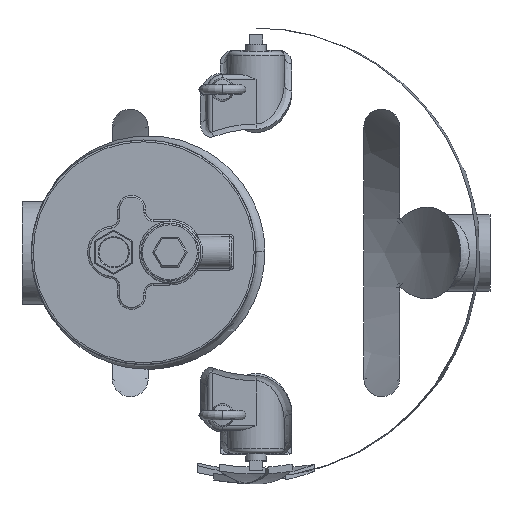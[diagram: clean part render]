
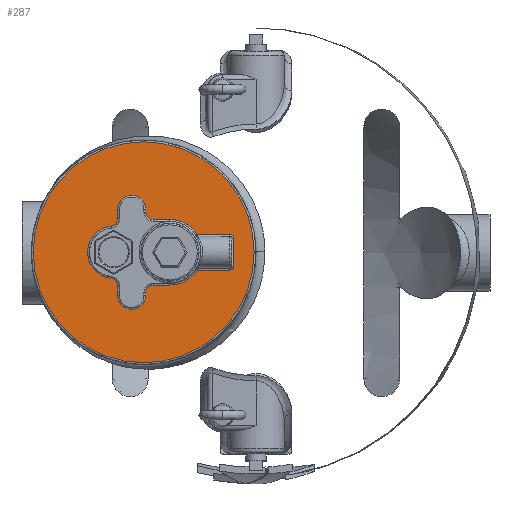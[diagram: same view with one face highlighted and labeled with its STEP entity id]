
A CAD part, top view. The second image highlights one B-rep face of the part: STEP entity #287.
In plain terms, the highlighted planar face has unit normal (0, 0, 1) as drawn and (0, 1, 0) by its records, which use the part's own axes.
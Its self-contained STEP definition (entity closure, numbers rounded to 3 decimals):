
#287=ADVANCED_FACE('',(#1531,#1532),#1530,.T.);
#1530=PLANE('',#22404);
#1531=FACE_OUTER_BOUND('',#22405,.T.);
#1532=FACE_BOUND('',#22406,.T.);
#22401=CARTESIAN_POINT('',(126.,283.5,-214.382));
#22402=DIRECTION('',(0.,1.,0.));
#22403=DIRECTION('',(-1.,0.,0.));
#22404=AXIS2_PLACEMENT_3D('',#22401,#22402,#22403);
#22405=EDGE_LOOP('',(#26276,#26277));
#22406=EDGE_LOOP('',(#26278,#26279,#26280,#26281,#26282,#26283,#26284,#26285,#26286,#26287,#26288,#26289,#26290,#26291,#26292,#26293,#26294,#26295,#26296,#26297));
#26276=ORIENTED_EDGE('',*,*,#27523,.T.);
#26277=ORIENTED_EDGE('',*,*,#27524,.T.);
#26278=ORIENTED_EDGE('',*,*,#27525,.T.);
#26279=ORIENTED_EDGE('',*,*,#27526,.T.);
#26280=ORIENTED_EDGE('',*,*,#27527,.T.);
#26281=ORIENTED_EDGE('',*,*,#27528,.T.);
#26282=ORIENTED_EDGE('',*,*,#27529,.T.);
#26283=ORIENTED_EDGE('',*,*,#27530,.T.);
#26284=ORIENTED_EDGE('',*,*,#27531,.T.);
#26285=ORIENTED_EDGE('',*,*,#27532,.T.);
#26286=ORIENTED_EDGE('',*,*,#27533,.T.);
#26287=ORIENTED_EDGE('',*,*,#27534,.T.);
#26288=ORIENTED_EDGE('',*,*,#27535,.T.);
#26289=ORIENTED_EDGE('',*,*,#27536,.T.);
#26290=ORIENTED_EDGE('',*,*,#27537,.T.);
#26291=ORIENTED_EDGE('',*,*,#27538,.T.);
#26292=ORIENTED_EDGE('',*,*,#27539,.T.);
#26293=ORIENTED_EDGE('',*,*,#27540,.T.);
#26294=ORIENTED_EDGE('',*,*,#27541,.T.);
#26295=ORIENTED_EDGE('',*,*,#27542,.T.);
#26296=ORIENTED_EDGE('',*,*,#27543,.T.);
#26297=ORIENTED_EDGE('',*,*,#27544,.T.);
#27523=EDGE_CURVE('',#29860,#29861,#29862,.T.);
#27524=EDGE_CURVE('',#29861,#29860,#29868,.T.);
#27525=EDGE_CURVE('',#29874,#29875,#29876,.T.);
#27526=EDGE_CURVE('',#29875,#29882,#29883,.T.);
#27527=EDGE_CURVE('',#29882,#29889,#29890,.T.);
#27528=EDGE_CURVE('',#29889,#29896,#29897,.T.);
#27529=EDGE_CURVE('',#29896,#29903,#29904,.T.);
#27530=EDGE_CURVE('',#29903,#29910,#29911,.T.);
#27531=EDGE_CURVE('',#29910,#29917,#29918,.T.);
#27532=EDGE_CURVE('',#29917,#29924,#29925,.T.);
#27533=EDGE_CURVE('',#29924,#29931,#29932,.T.);
#27534=EDGE_CURVE('',#29931,#29938,#29939,.T.);
#27535=EDGE_CURVE('',#29938,#29945,#29946,.T.);
#27536=EDGE_CURVE('',#29945,#29952,#29953,.T.);
#27537=EDGE_CURVE('',#29952,#29959,#29960,.T.);
#27538=EDGE_CURVE('',#29959,#29966,#29967,.T.);
#27539=EDGE_CURVE('',#29966,#29973,#29974,.T.);
#27540=EDGE_CURVE('',#29973,#29980,#29981,.T.);
#27541=EDGE_CURVE('',#29980,#29987,#29988,.T.);
#27542=EDGE_CURVE('',#29987,#29994,#29995,.T.);
#27543=EDGE_CURVE('',#29994,#30001,#30002,.T.);
#27544=EDGE_CURVE('',#30001,#29874,#30008,.T.);
#29860=VERTEX_POINT('',#35608);
#29861=VERTEX_POINT('',#35609);
#29862=CIRCLE('',#35613,118.);
#29868=CIRCLE('',#35617,118.);
#29874=VERTEX_POINT('',#35618);
#29875=VERTEX_POINT('',#35619);
#29876=LINE('',#35620,#35621);
#29882=VERTEX_POINT('',#35623);
#29883=CIRCLE('',#35627,4.);
#29889=VERTEX_POINT('',#35628);
#29890=LINE('',#35629,#35630);
#29896=VERTEX_POINT('',#35632);
#29897=CIRCLE('',#35636,35.);
#29903=VERTEX_POINT('',#35637);
#29904=LINE('',#35638,#35639);
#29910=VERTEX_POINT('',#35641);
#29911=CIRCLE('',#35645,8.);
#29917=VERTEX_POINT('',#35646);
#29918=LINE('',#35647,#35648);
#29924=VERTEX_POINT('',#35650);
#29925=CIRCLE('',#35654,15.);
#29931=VERTEX_POINT('',#35655);
#29932=LINE('',#35656,#35657);
#29938=VERTEX_POINT('',#35659);
#29939=CIRCLE('',#35663,8.);
#29945=VERTEX_POINT('',#35664);
#29946=CIRCLE('',#35668,28.);
#29952=VERTEX_POINT('',#35669);
#29953=CIRCLE('',#35673,8.);
#29959=VERTEX_POINT('',#35674);
#29960=LINE('',#35675,#35676);
#29966=VERTEX_POINT('',#35678);
#29967=CIRCLE('',#35682,15.);
#29973=VERTEX_POINT('',#35683);
#29974=LINE('',#35684,#35685);
#29980=VERTEX_POINT('',#35687);
#29981=CIRCLE('',#35691,8.);
#29987=VERTEX_POINT('',#35692);
#29988=LINE('',#35693,#35694);
#29994=VERTEX_POINT('',#35696);
#29995=CIRCLE('',#35700,35.);
#30001=VERTEX_POINT('',#35701);
#30002=LINE('',#35702,#35703);
#30008=CIRCLE('',#35708,4.);
#35608=CARTESIAN_POINT('',(-238.,283.5,0.));
#35609=CARTESIAN_POINT('',(-2.,283.5,0.));
#35610=CARTESIAN_POINT('',(-120.,283.5,0.));
#35611=DIRECTION('',(0.,1.,0.));
#35612=DIRECTION('',(-1.,0.,0.));
#35613=AXIS2_PLACEMENT_3D('',#35610,#35611,#35612);
#35614=CARTESIAN_POINT('',(-120.,283.5,0.));
#35615=DIRECTION('',(0.,1.,0.));
#35616=DIRECTION('',(-1.,0.,0.));
#35617=AXIS2_PLACEMENT_3D('',#35614,#35615,#35616);
#35618=CARTESIAN_POINT('',(-24.,283.5,-15.));
#35619=CARTESIAN_POINT('',(-24.,283.5,15.));
#35620=CARTESIAN_POINT('',(-24.,283.5,-15.));
#35621=VECTOR('',#35622,30.);
#35622=DIRECTION('',(0.,0.,1.));
#35623=CARTESIAN_POINT('',(-28.,283.5,19.));
#35624=CARTESIAN_POINT('',(-28.,283.5,15.));
#35625=DIRECTION('',(0.,-1.,0.));
#35626=DIRECTION('',(-1.,0.,0.));
#35627=AXIS2_PLACEMENT_3D('',#35624,#35625,#35626);
#35628=CARTESIAN_POINT('',(-62.606,283.5,19.));
#35629=CARTESIAN_POINT('',(-28.,283.5,19.));
#35630=VECTOR('',#35631,34.606);
#35631=DIRECTION('',(-1.,0.,0.));
#35632=CARTESIAN_POINT('',(-92.,283.5,35.));
#35633=CARTESIAN_POINT('',(-92.,283.5,0.));
#35634=DIRECTION('',(0.,-1.,0.));
#35635=DIRECTION('',(-0.84,0.,-0.543));
#35636=AXIS2_PLACEMENT_3D('',#35633,#35634,#35635);
#35637=CARTESIAN_POINT('',(-109.8,283.5,35.));
#35638=CARTESIAN_POINT('',(-92.,283.5,35.));
#35639=VECTOR('',#35640,17.8);
#35640=DIRECTION('',(-1.,0.,0.));
#35641=CARTESIAN_POINT('',(-117.8,283.5,43.));
#35642=CARTESIAN_POINT('',(-109.8,283.5,43.));
#35643=DIRECTION('',(0.,1.,0.));
#35644=DIRECTION('',(0.,0.,1.));
#35645=AXIS2_PLACEMENT_3D('',#35642,#35643,#35644);
#35646=CARTESIAN_POINT('',(-117.8,283.5,46.));
#35647=CARTESIAN_POINT('',(-117.8,283.5,43.));
#35648=VECTOR('',#35649,3.);
#35649=DIRECTION('',(0.,0.,1.));
#35650=CARTESIAN_POINT('',(-147.8,283.5,46.));
#35651=CARTESIAN_POINT('',(-132.8,283.5,46.));
#35652=DIRECTION('',(0.,-1.,0.));
#35653=DIRECTION('',(-1.,0.,0.));
#35654=AXIS2_PLACEMENT_3D('',#35651,#35652,#35653);
#35655=CARTESIAN_POINT('',(-147.8,283.5,35.799));
#35656=CARTESIAN_POINT('',(-147.8,283.5,46.));
#35657=VECTOR('',#35658,10.201);
#35658=DIRECTION('',(0.,0.,-1.));
#35659=CARTESIAN_POINT('',(-154.956,283.5,27.844));
#35660=CARTESIAN_POINT('',(-155.8,283.5,35.799));
#35661=DIRECTION('',(0.,1.,0.));
#35662=DIRECTION('',(-1.,0.,0.));
#35663=AXIS2_PLACEMENT_3D('',#35660,#35661,#35662);
#35664=CARTESIAN_POINT('',(-154.956,283.5,-27.844));
#35665=CARTESIAN_POINT('',(-152.,283.5,0.));
#35666=DIRECTION('',(0.,-1.,0.));
#35667=DIRECTION('',(0.106,0.,-0.994));
#35668=AXIS2_PLACEMENT_3D('',#35665,#35666,#35667);
#35669=CARTESIAN_POINT('',(-147.8,283.5,-35.799));
#35670=CARTESIAN_POINT('',(-155.8,283.5,-35.799));
#35671=DIRECTION('',(0.,1.,0.));
#35672=DIRECTION('',(-0.106,0.,-0.994));
#35673=AXIS2_PLACEMENT_3D('',#35670,#35671,#35672);
#35674=CARTESIAN_POINT('',(-147.8,283.5,-46.));
#35675=CARTESIAN_POINT('',(-147.8,283.5,-35.799));
#35676=VECTOR('',#35677,10.201);
#35677=DIRECTION('',(0.,0.,-1.));
#35678=CARTESIAN_POINT('',(-117.8,283.5,-46.));
#35679=CARTESIAN_POINT('',(-132.8,283.5,-46.));
#35680=DIRECTION('',(0.,-1.,0.));
#35681=DIRECTION('',(1.,0.,0.));
#35682=AXIS2_PLACEMENT_3D('',#35679,#35680,#35681);
#35683=CARTESIAN_POINT('',(-117.8,283.5,-43.));
#35684=CARTESIAN_POINT('',(-117.8,283.5,-46.));
#35685=VECTOR('',#35686,3.);
#35686=DIRECTION('',(0.,0.,1.));
#35687=CARTESIAN_POINT('',(-109.8,283.5,-35.));
#35688=CARTESIAN_POINT('',(-109.8,283.5,-43.));
#35689=DIRECTION('',(0.,1.,0.));
#35690=DIRECTION('',(1.,0.,0.));
#35691=AXIS2_PLACEMENT_3D('',#35688,#35689,#35690);
#35692=CARTESIAN_POINT('',(-92.,283.5,-35.));
#35693=CARTESIAN_POINT('',(-109.8,283.5,-35.));
#35694=VECTOR('',#35695,17.8);
#35695=DIRECTION('',(1.,0.,0.));
#35696=CARTESIAN_POINT('',(-62.606,283.5,-19.));
#35697=CARTESIAN_POINT('',(-92.,283.5,0.));
#35698=DIRECTION('',(0.,-1.,0.));
#35699=DIRECTION('',(0.,0.,1.));
#35700=AXIS2_PLACEMENT_3D('',#35697,#35698,#35699);
#35701=CARTESIAN_POINT('',(-28.,283.5,-19.));
#35702=CARTESIAN_POINT('',(-62.606,283.5,-19.));
#35703=VECTOR('',#35704,34.606);
#35704=DIRECTION('',(1.,0.,0.));
#35705=CARTESIAN_POINT('',(-28.,283.5,-15.));
#35706=DIRECTION('',(0.,-1.,0.));
#35707=DIRECTION('',(0.,0.,1.));
#35708=AXIS2_PLACEMENT_3D('',#35705,#35706,#35707);
